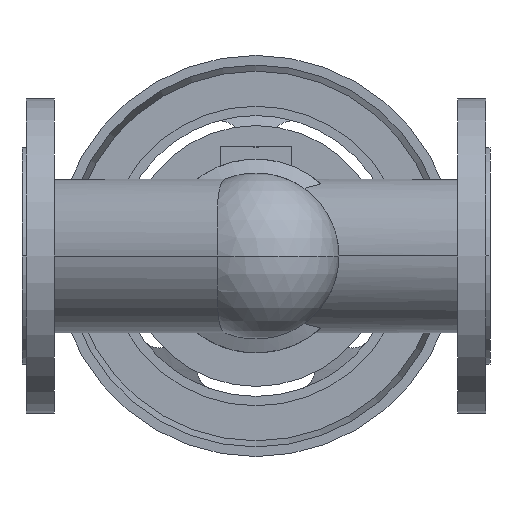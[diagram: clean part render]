
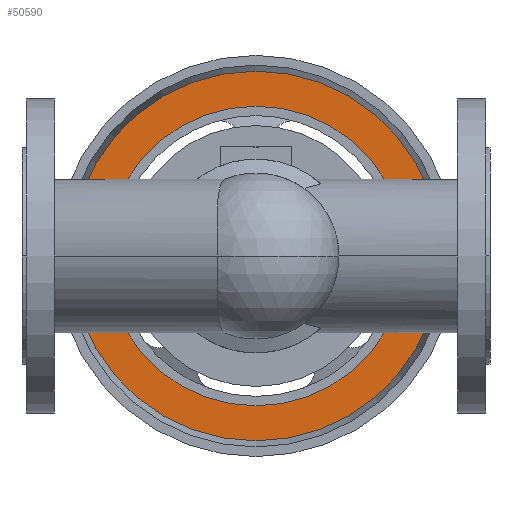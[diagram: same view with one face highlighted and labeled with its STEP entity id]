
A CAD part, front view. The second image highlights one B-rep face of the part: STEP entity #50590.
In plain terms, the highlighted planar face has unit normal (0, -1, 0).
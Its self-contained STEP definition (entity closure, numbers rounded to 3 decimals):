
#50040=CARTESIAN_POINT('',(313.198,489.9,0.));
#50050=VERTEX_POINT('',#50040);
#50080=CARTESIAN_POINT('',(175.,489.9,0.));
#50090=DIRECTION('',(0.,1.,0.));
#50100=DIRECTION('',(-1.,0.,0.));
#50110=AXIS2_PLACEMENT_3D('',#50080,#50090,#50100);
#50120=CIRCLE('',#50110,138.198);
#50130=CARTESIAN_POINT('',(36.802,489.9,0.));
#50140=VERTEX_POINT('',#50130);
#50150=EDGE_CURVE('',#50140,#50050,#50120,.T.);
#50340=CARTESIAN_POINT('',(49.901,489.9,0.))
;
#50350=DIRECTION('',(0.,-1.,0.));
#50360=DIRECTION('',(1.,0.,0.));
#50370=AXIS2_PLACEMENT_3D('',#50340,#50350,#50360);
#50380=PLANE('',#50370);
#50390=ORIENTED_EDGE('',*,*,#50150,.F.);
#50400=EDGE_CURVE('',#50050,#50140,#50120,.T.);
#50410=ORIENTED_EDGE('',*,*,#50400,.F.);
#50420=EDGE_LOOP('',(#50410,#50390));
#50430=FACE_OUTER_BOUND('',#50420,.T.);
#50440=CARTESIAN_POINT('',(175.,489.9,0.));
#50450=DIRECTION('',(0.,1.,0.));
#50460=DIRECTION('',(-1.,0.,0.));
#50470=AXIS2_PLACEMENT_3D('',#50440,#50450,#50460);
#50480=CIRCLE('',#50470,112.);
#50490=CARTESIAN_POINT('',(63.,489.9,0.));
#50500=VERTEX_POINT('',#50490);
#50510=CARTESIAN_POINT('',(287.,489.9,0.));
#50520=VERTEX_POINT('',#50510);
#50530=EDGE_CURVE('',#50500,#50520,#50480,.T.);
#50540=ORIENTED_EDGE('',*,*,#50530,.T.);
#50550=EDGE_CURVE('',#50520,#50500,#50480,.T.);
#50560=ORIENTED_EDGE('',*,*,#50550,.T.);
#50570=EDGE_LOOP('',(#50560,#50540));
#50580=FACE_BOUND('',#50570,.T.);
#50590=ADVANCED_FACE('',(#50430,#50580),#50380,.T.);
